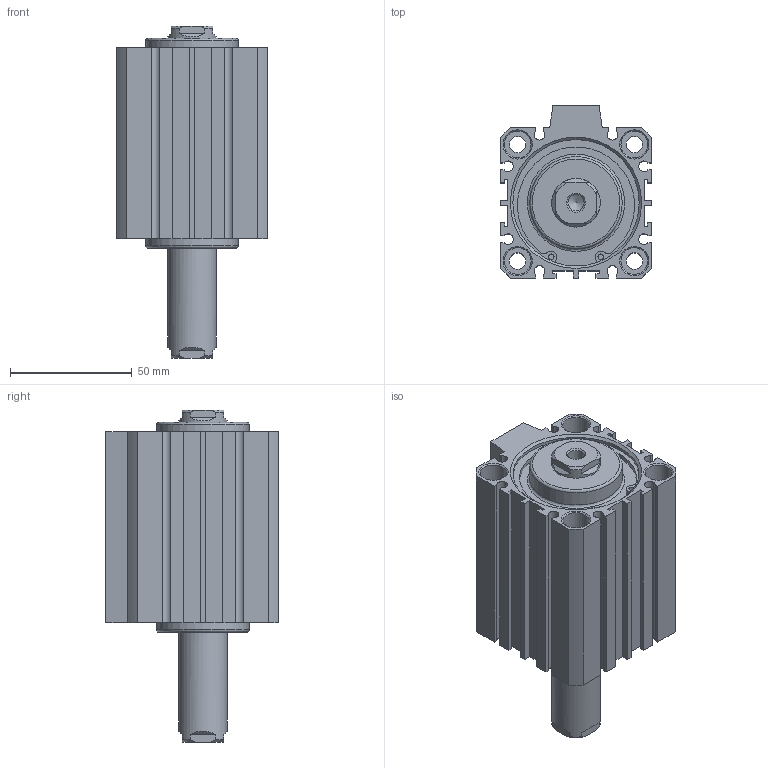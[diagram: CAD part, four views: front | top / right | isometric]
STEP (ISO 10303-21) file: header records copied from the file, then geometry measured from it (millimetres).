
FILE_DESCRIPTION((''),'2;1');
FILE_NAME('I:\3D電子目錄\氣缸\JDD\JDD-S\JDD50-S\JDD50x40-S.stp','2007-02-09T08:40:54',('662F206'),(''),'Autodesk Inventor 10','Autodesk Inventor 10','');
FILE_SCHEMA(('AUTOMOTIVE_DESIGN { 1 0 10303 214 1 1 1 1 }'));
Length unit declared in the file: millimetre
Products named in the file (3): JDD50-S; R 形環 52
Assembly tree (3 placements, depth 2):
  JDD50-S
    JDD50-S
    R 形環 52  x2
Bounding box: 62 x 71 x 136.6 mm (x, y, z)
Volume: 288448.7 mm3; surface area: 57516.8 mm2
Topology: 3 solids, 3 shells, 200 faces, 502 edges, 330 vertices
Faces by surface type: plane 116, cylinder 52, cone 24, bspline 6, torus 2
Full cylindrical faces by diameter (mm): 2.3 x4, 2.7 x2, 6.8 x4, 11 x8, 20 x2, 38 x2, 52 x4, 55 x2
Entity records: 5511 total; most frequent: CARTESIAN_POINT 1094, DIRECTION 908, ORIENTED_EDGE 824, EDGE_CURVE 412, AXIS2_PLACEMENT_3D 324, VERTEX_POINT 300, EDGE_LOOP 272, VECTOR 260
